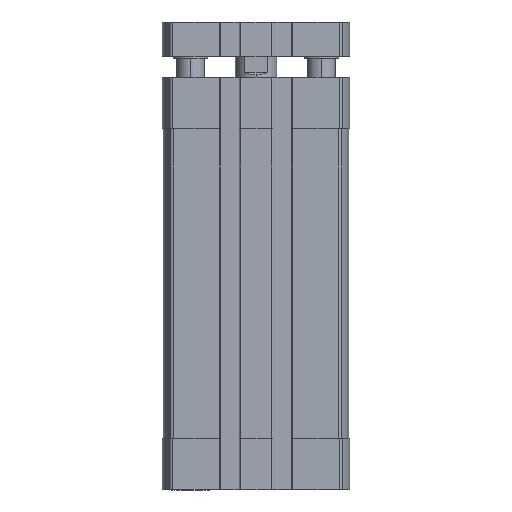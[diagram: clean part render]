
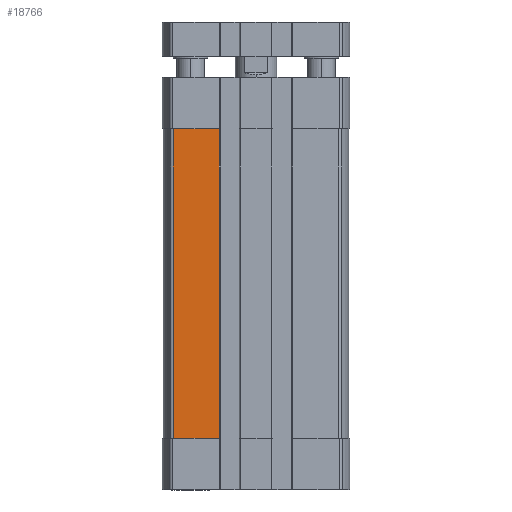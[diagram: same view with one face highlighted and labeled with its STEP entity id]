
A CAD part, front view. The second image highlights one B-rep face of the part: STEP entity #18766.
In plain terms, the highlighted planar face has unit normal (0, -1, 0) as drawn and (-1, 0, 0) by its records, which use the part's own axes.
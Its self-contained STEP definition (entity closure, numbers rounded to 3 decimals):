
#1764 = DIRECTION ( 'NONE',  ( 0., -1., 0. ) ) ;
#2436 = VERTEX_POINT ( 'NONE', #17858 ) ;
#2794 = VERTEX_POINT ( 'NONE', #3321 ) ;
#3321 = CARTESIAN_POINT ( 'NONE',  ( -27., 10.7, -15. ) ) ;
#3329 = ORIENTED_EDGE ( 'NONE', *, *, #21109, .T. ) ;
#3642 = LINE ( 'NONE', #5282, #8400 ) ;
#4734 = CARTESIAN_POINT ( 'NONE',  ( -27., 24.093, -15. ) ) ;
#5282 = CARTESIAN_POINT ( 'NONE',  ( -27., 0., -15. ) ) ;
#5913 = VECTOR ( 'NONE', #21419, 1000. ) ;
#6723 = EDGE_CURVE ( 'NONE', #2436, #17649, #10740, .T. ) ;
#8080 = ORIENTED_EDGE ( 'NONE', *, *, #9138, .T. ) ;
#8400 = VECTOR ( 'NONE', #16005, 1000. ) ;
#8893 = CARTESIAN_POINT ( 'NONE',  ( -27., 10.7, -105. ) ) ;
#9138 = EDGE_CURVE ( 'NONE', #17649, #2794, #16547, .T. ) ;
#10740 = LINE ( 'NONE', #23163, #19681 ) ;
#10904 = EDGE_LOOP ( 'NONE', ( #21847, #8080, #3329, #21273 ) ) ;
#12227 = DIRECTION ( 'NONE',  ( 0., 0., 1. ) ) ;
#13251 = CARTESIAN_POINT ( 'NONE',  ( -27., 10.7, -105. ) ) ;
#13956 = CARTESIAN_POINT ( 'NONE',  ( -27., 24.093, -105. ) ) ;
#14389 = FACE_OUTER_BOUND ( 'NONE', #10904, .T. ) ;
#16005 = DIRECTION ( 'NONE',  ( 0., 1., 0. ) ) ;
#16220 = CARTESIAN_POINT ( 'NONE',  ( -27., 24.093, -105. ) ) ;
#16547 = LINE ( 'NONE', #8893, #5913 ) ;
#17649 = VERTEX_POINT ( 'NONE', #13251 ) ;
#17858 = CARTESIAN_POINT ( 'NONE',  ( -27., 24.093, -105. ) ) ;
#18081 = DIRECTION ( 'NONE',  ( 0., 0., -1. ) ) ;
#18766 = ADVANCED_FACE ( 'NONE', ( #14389 ), #22765, .T. ) ;
#19681 = VECTOR ( 'NONE', #1764, 1000. ) ;
#20625 = AXIS2_PLACEMENT_3D ( 'NONE', #13956, #22921, #12227 ) ;
#20970 = VERTEX_POINT ( 'NONE', #4734 ) ;
#21109 = EDGE_CURVE ( 'NONE', #2794, #20970, #3642, .T. ) ;
#21273 = ORIENTED_EDGE ( 'NONE', *, *, #21609, .T. ) ;
#21419 = DIRECTION ( 'NONE',  ( 0., 0., 1. ) ) ;
#21551 = VECTOR ( 'NONE', #18081, 1000. ) ;
#21609 = EDGE_CURVE ( 'NONE', #20970, #2436, #22094, .T. ) ;
#21847 = ORIENTED_EDGE ( 'NONE', *, *, #6723, .T. ) ;
#22094 = LINE ( 'NONE', #16220, #21551 ) ;
#22765 = PLANE ( 'NONE',  #20625 ) ;
#22921 = DIRECTION ( 'NONE',  ( -1., 0., 0. ) ) ;
#23163 = CARTESIAN_POINT ( 'NONE',  ( -27., 24.093, -105. ) ) ;
